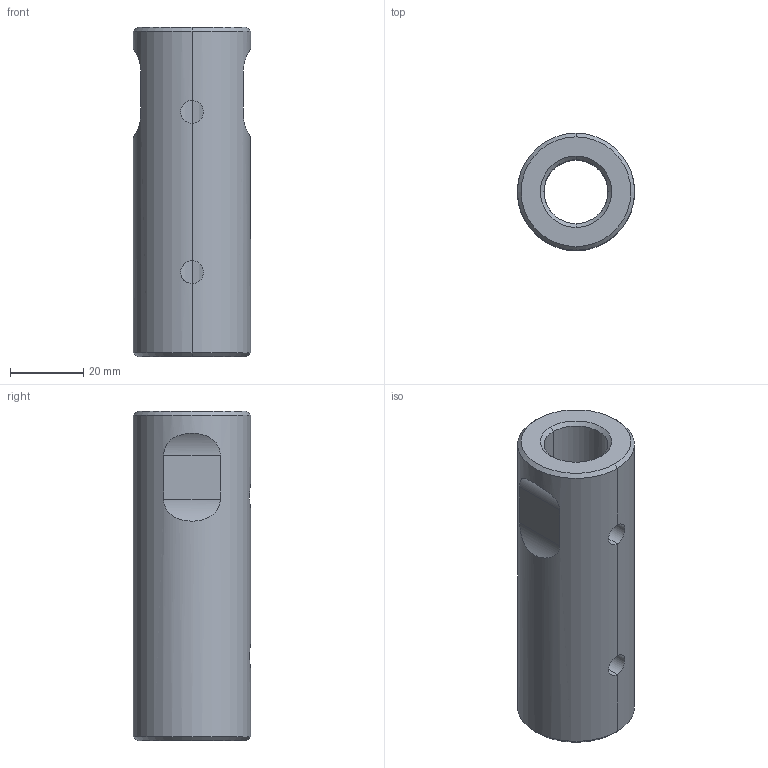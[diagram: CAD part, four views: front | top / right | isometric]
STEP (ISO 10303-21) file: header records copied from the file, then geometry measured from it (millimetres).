
FILE_DESCRIPTION (( 'STEP AP214' ), '1' );
FILE_NAME ('Spannschloss M20.STEP', '2018-02-22T09:59:33', ( 'install' ), ( 'Hewlett-Packard Company' ), 'SwSTEP 2.0', 'SolidWorks 2017', '' );
FILE_SCHEMA (( 'AUTOMOTIVE_DESIGN' ));
Length unit declared in the file: millimetre
Products named in the file (1): Spannschloss M20
Bounding box: 32 x 32 x 90 mm (x, y, z)
Volume: 42482.7 mm3; surface area: 15992.5 mm2
Topology: 1 solids, 1 shells, 30 faces, 74 edges, 44 vertices
Faces by surface type: cylinder 16, cone 8, plane 6
Entity records: 1325 total; most frequent: CARTESIAN_POINT 586, ORIENTED_EDGE 148, DIRECTION 144, EDGE_CURVE 74, AXIS2_PLACEMENT_3D 55, VERTEX_POINT 44, EDGE_LOOP 34, LINE 34
